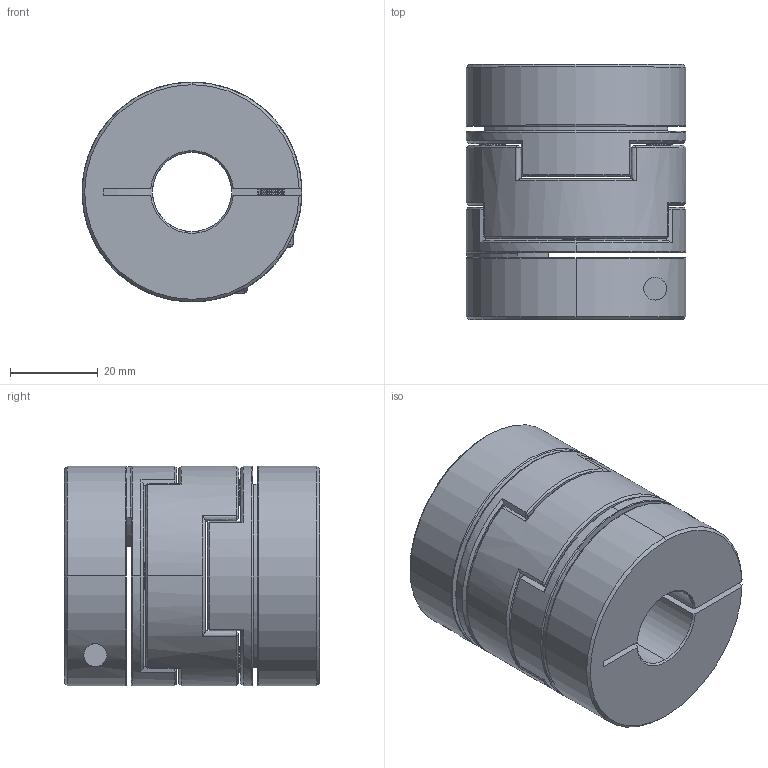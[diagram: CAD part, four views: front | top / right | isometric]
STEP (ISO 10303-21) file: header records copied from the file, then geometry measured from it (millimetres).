
FILE_DESCRIPTION (( 'STEP AP203' ), '1' );
FILE_NAME ('LZ-B-D50L58-18-19.STEP', '2021-10-29T08:13:14', ( '' ), ( '' ), 'SwSTEP 2.0', 'SolidWorks 2018', '' );
FILE_SCHEMA (( 'CONFIG_CONTROL_DESIGN' ));
Length unit declared in the file: millimetre
Products named in the file (1): LZ-B-D50L58-18-19
Bounding box: 50 x 58 x 50 mm (x, y, z)
Volume: 89923.2 mm3; surface area: 29885.2 mm2
Topology: 1 solids, 27 shells, 560 faces, 1364 edges, 810 vertices
Faces by surface type: cone 252, cylinder 160, plane 90, bspline 54, torus 4
Entity records: 17422 total; most frequent: CARTESIAN_POINT 4342, DIRECTION 2782, ORIENTED_EDGE 2720, EDGE_CURVE 1360, AXIS2_PLACEMENT_3D 1123, VERTEX_POINT 810, CIRCLE 616, EDGE_LOOP 594
